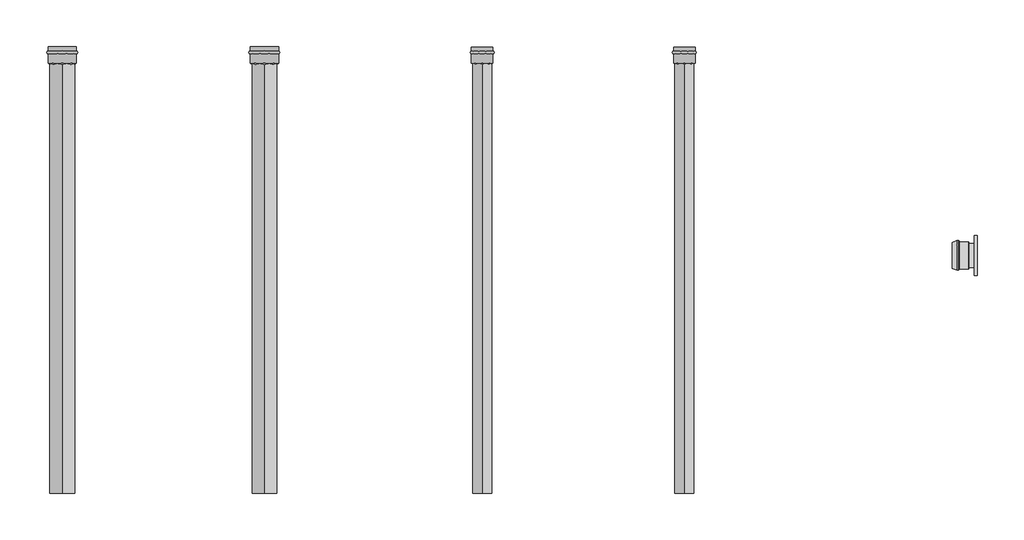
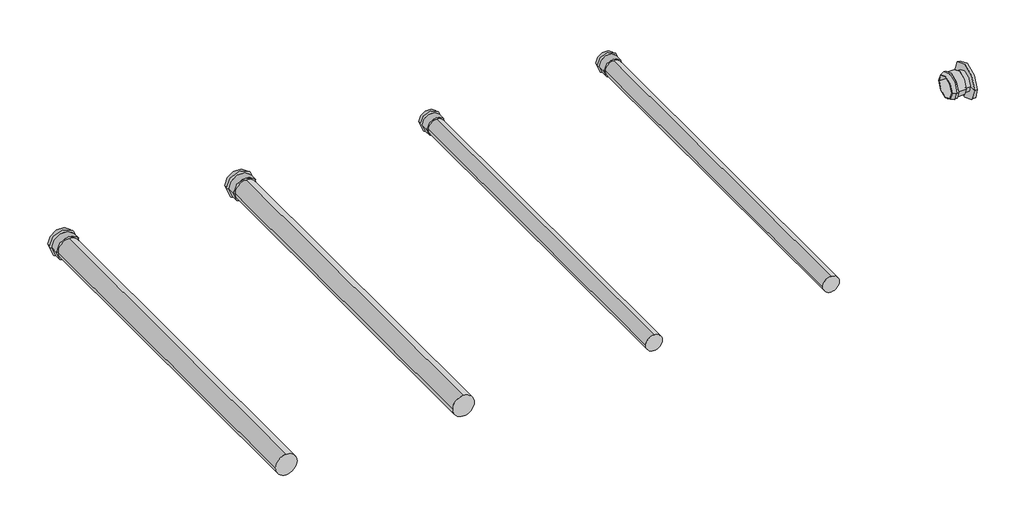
# One storey, incomplete: 5 pipe fittings, 4 pipe segments.
"""IFC4 building model written with IfcOpenShell, lengths in millimetres."""

from ifc_helpers import new_model, si_unit, point, frame, frame_2d, origin, place, context, project, spatial, circle_curve, trimmed, segment, composite_curve, outline, extrude, transform, mapped, element, save
from components import var_837b00b0, var_82937ac9, var_f61483a0

model = new_model("IFC4")

# Units and contexts
model_context = context("Model", 3, world=origin())
ifc_project = project(units=[si_unit("LENGTHUNIT", "METRE", prefix="MILLI")], contexts=[model_context])

# Site, building, storey
site = spatial("IfcSite", under=ifc_project)
building = spatial("IfcBuilding", under=site)
storey = spatial("IfcBuildingStorey", under=building, Name="AWWA C900 y C110", Elevation=0.0)

# Pipe fittings
placement = place(None, origin())
var_shape = var_837b00b0(model_context)
element("IfcPipeFitting", 1, ObjectType="PavcoWavin_UnionesDeTuberia_AwwaC110TransicionCampanaBrida : Var.", at=placement, inside=storey, context=model_context, shape_type="MappedRepresentation", body=[
    mapped(var_shape, transform((7795.1406307, -6505.380058, 0.0), x_axis=(-1.0, 0.0, 0.0), y_axis=(0.0, 1.0, 0.0), z_axis=(0.0, 0.0, -1.0))),
])
var_2_shape = var_82937ac9(model_context)
element("IfcPipeFitting", 2, ObjectType="PavcoWavin_UnionesDeTuberia_AwwaC110CampanaA : Var.", at=placement, inside=storey, context=model_context, shape_type="MappedRepresentation", body=[
    mapped(var_2_shape, transform((-658.7549581, -4716.1795622, 0.0), x_axis=(0.0, -1.0, 0.0), y_axis=(1.0, 0.0, 0.0), z_axis=(0.0, 0.0, 1.0))),
])
element("IfcPipeFitting", 3, ObjectType="PavcoWavin_UnionesDeTuberia_AwwaC110CampanaA : Var.", at=placement, inside=storey, context=model_context, shape_type="MappedRepresentation", body=[
    mapped(var_2_shape, transform((1219.2450419, -4716.1795622, 0.0), x_axis=(0.0, -1.0, 0.0), y_axis=(1.0, 0.0, 0.0), z_axis=(0.0, 0.0, 1.0))),
])
var_3_shape = var_f61483a0(model_context)
element("IfcPipeFitting", 4, ObjectType="PavcoWavin_UnionesDeTuberia_AwwaC110CampanaA : Var.", at=placement, inside=storey, context=model_context, shape_type="MappedRepresentation", body=[
    mapped(var_3_shape, transform((3241.2450419, -4716.1795622, 0.0), x_axis=(0.0, -1.0, 0.0), y_axis=(1.0, 0.0, 0.0), z_axis=(0.0, 0.0, 1.0))),
])
element("IfcPipeFitting", 5, ObjectType="PavcoWavin_UnionesDeTuberia_AwwaC110CampanaA : Var.", at=placement, inside=storey, context=model_context, shape_type="MappedRepresentation", body=[
    mapped(var_3_shape, transform((5119.2450419, -4716.1795622, 0.0), x_axis=(0.0, -1.0, 0.0), y_axis=(1.0, 0.0, 0.0), z_axis=(0.0, 0.0, 1.0))),
])

# Pipe segments
element("IfcPipeSegment", 6, ObjectType="PavcoWavin_Tuberias_AWWA-C900-RDE14_4a8\"", at=placement, inside=storey, context=model_context, shape_type="SweptSolid", body=[
    extrude(outline(composite_curve([segment(trimmed(circle_curve(frame_2d((0.0, -658.7549581)), 115.09375), [point((0.0, -773.8487081))], [point((-115.09375, -658.7549581))], False, "CARTESIAN"), True, "CONTINUOUS"), segment(trimmed(circle_curve(frame_2d((0.0, -658.7549581)), 115.09375), [point((-115.09375, -658.7549581))], [point((0.0, -543.6612081))], False, "CARTESIAN"), True, "CONTINUOUS"), segment(trimmed(circle_curve(frame_2d((0.0, -658.7549581)), 115.09375), [point((0.0, -543.6612081))], [point((115.09375, -658.7549581))], False, "CARTESIAN"), True, "CONTINUOUS"), segment(trimmed(circle_curve(frame_2d((0.0, -658.7549581)), 115.09375), [point((115.09375, -658.7549581))], [point((0.0, -773.8487081))], False, "CARTESIAN"), True, "CONTINUOUS")], self_intersect=False)), frame((0.0, -8716.1795622, 0.0), z_axis=(0.0, 1.0, 0.0), x_axis=(0.0, 0.0, 1.0)), (0.0, 0.0, 1.0), 4000.0),
])
element("IfcPipeSegment", 7, ObjectType="PavcoWavin_Tuberias_AWWA-C900-RDE18_4a8\"", at=placement, inside=storey, context=model_context, shape_type="SweptSolid", body=[
    extrude(outline(composite_curve([segment(trimmed(circle_curve(frame_2d((0.0, 1219.2450419)), 115.09375), [point((0.0, 1104.1512919))], [point((-115.09375, 1219.2450419))], False, "CARTESIAN"), True, "CONTINUOUS"), segment(trimmed(circle_curve(frame_2d((0.0, 1219.2450419)), 115.09375), [point((-115.09375, 1219.2450419))], [point((0.0, 1334.3387919))], False, "CARTESIAN"), True, "CONTINUOUS"), segment(trimmed(circle_curve(frame_2d((0.0, 1219.2450419)), 115.09375), [point((0.0, 1334.3387919))], [point((115.09375, 1219.2450419))], False, "CARTESIAN"), True, "CONTINUOUS"), segment(trimmed(circle_curve(frame_2d((0.0, 1219.2450419)), 115.09375), [point((115.09375, 1219.2450419))], [point((0.0, 1104.1512919))], False, "CARTESIAN"), True, "CONTINUOUS")], self_intersect=False)), frame((0.0, -8716.1795622, 0.0), z_axis=(0.0, 1.0, 0.0), x_axis=(0.0, 0.0, 1.0)), (0.0, 0.0, 1.0), 4000.0),
])
element("IfcPipeSegment", 8, ObjectType="PavcoWavin_Tuberias Restringidas_AWWA-C900-RDE14_4a6\"", at=placement, inside=storey, context=model_context, shape_type="SweptSolid", body=[
    extrude(outline(composite_curve([segment(trimmed(circle_curve(frame_2d((0.0, 3241.2450419)), 87.709375), [point((0.0, 3153.5356669))], [point((-87.709375, 3241.2450419))], False, "CARTESIAN"), True, "CONTINUOUS"), segment(trimmed(circle_curve(frame_2d((0.0, 3241.2450419)), 87.709375), [point((-87.709375, 3241.2450419))], [point((0.0, 3328.9544169))], False, "CARTESIAN"), True, "CONTINUOUS"), segment(trimmed(circle_curve(frame_2d((0.0, 3241.2450419)), 87.709375), [point((0.0, 3328.9544169))], [point((87.709375, 3241.2450419))], False, "CARTESIAN"), True, "CONTINUOUS"), segment(trimmed(circle_curve(frame_2d((0.0, 3241.2450419)), 87.709375), [point((87.709375, 3241.2450419))], [point((0.0, 3153.5356669))], False, "CARTESIAN"), True, "CONTINUOUS")], self_intersect=False)), frame((0.0, -8716.1795622, 0.0), z_axis=(0.0, 1.0, 0.0), x_axis=(0.0, 0.0, 1.0)), (0.0, 0.0, 1.0), 4000.0),
])
element("IfcPipeSegment", 9, ObjectType="PavcoWavin_Tuberias Restringidas_AWWA-C900-RDE18_4a6\"", at=placement, inside=storey, context=model_context, shape_type="SweptSolid", body=[
    extrude(outline(composite_curve([segment(trimmed(circle_curve(frame_2d((0.0, 5119.2450419)), 87.709375), [point((0.0, 5031.5356669))], [point((-87.709375, 5119.2450419))], False, "CARTESIAN"), True, "CONTINUOUS"), segment(trimmed(circle_curve(frame_2d((0.0, 5119.2450419)), 87.709375), [point((-87.709375, 5119.2450419))], [point((0.0, 5206.9544169))], False, "CARTESIAN"), True, "CONTINUOUS"), segment(trimmed(circle_curve(frame_2d((0.0, 5119.2450419)), 87.709375), [point((0.0, 5206.9544169))], [point((87.709375, 5119.2450419))], False, "CARTESIAN"), True, "CONTINUOUS"), segment(trimmed(circle_curve(frame_2d((0.0, 5119.2450419)), 87.709375), [point((87.709375, 5119.2450419))], [point((0.0, 5031.5356669))], False, "CARTESIAN"), True, "CONTINUOUS")], self_intersect=False)), frame((0.0, -8716.1795622, 0.0), z_axis=(0.0, 1.0, 0.0), x_axis=(0.0, 0.0, 1.0)), (0.0, 0.0, 1.0), 4000.0),
])

save(model, "model.ifc")
